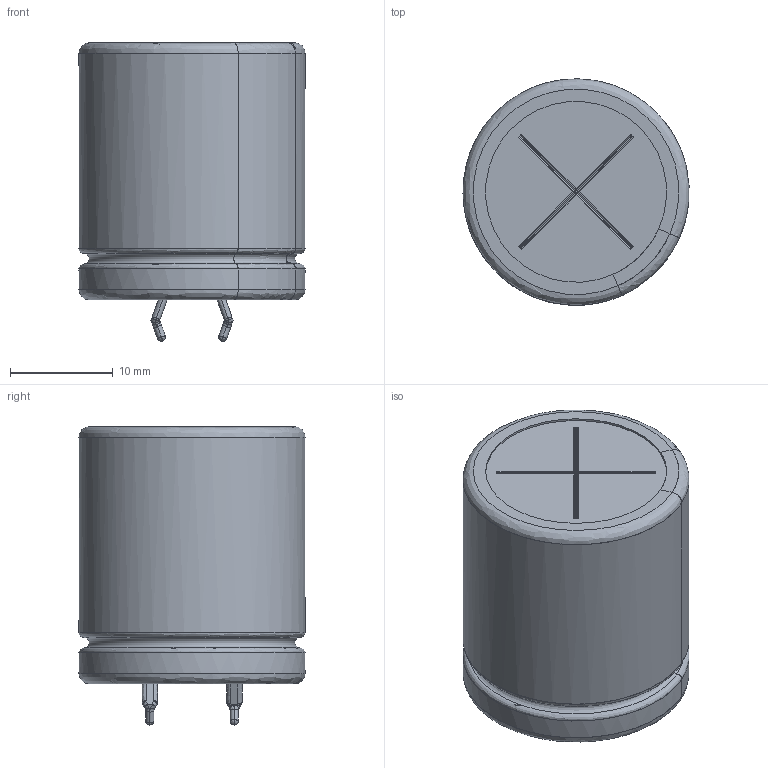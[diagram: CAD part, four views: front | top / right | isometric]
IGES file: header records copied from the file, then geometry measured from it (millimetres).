
Start section: JAMA-IS VERSION  1.0
Bounding box: 21.98 x 21.98 x 29.02 mm (x, y, z)
Surface area: 6598.6 mm2 (no closed solid volume)
Topology: 0 solids, 0 shells, 208 faces, 2178 edges, 2142 vertices
Faces by surface type: bspline 208
